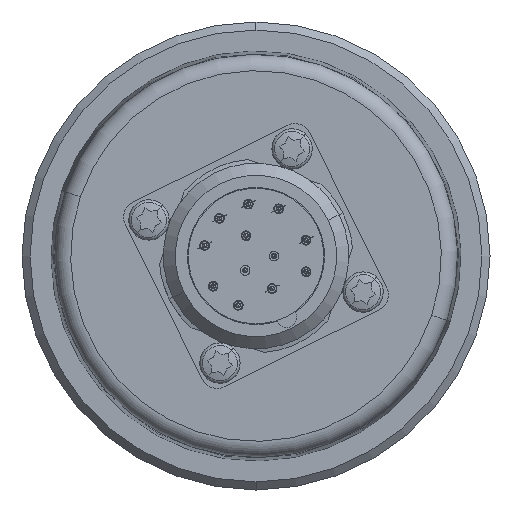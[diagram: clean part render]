
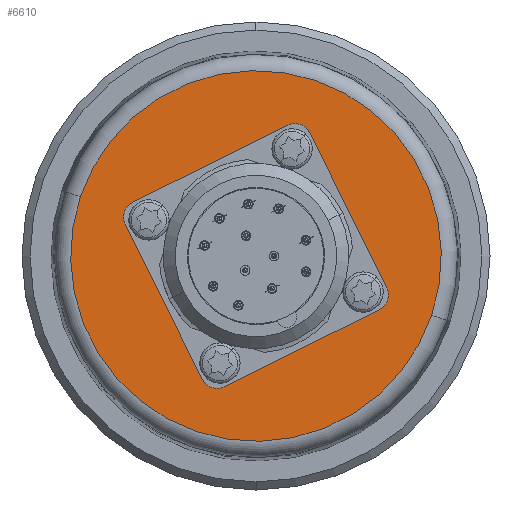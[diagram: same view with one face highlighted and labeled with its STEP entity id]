
A CAD part, left-side view. The second image highlights one B-rep face of the part: STEP entity #6610.
In plain terms, the highlighted planar face has unit normal (-1, 0, 0).
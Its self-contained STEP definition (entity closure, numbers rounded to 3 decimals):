
#599 = CIRCLE ( 'NONE', #657, 11.5 ) ;
#607 = DIRECTION ( 'NONE',  ( 0., 0.948, 0.319 ) ) ;
#608 = DIRECTION ( 'NONE',  ( 1., 0., 0. ) ) ;
#609 = CARTESIAN_POINT ( 'NONE',  ( -21., -4.469, 13.268 ) ) ;
#610 = AXIS2_PLACEMENT_3D ( 'NONE', #609, #608, #607 ) ;
#611 = CIRCLE ( 'NONE', #610, 1.389 ) ;
#649 = DIRECTION ( 'NONE',  ( 0., 0.948, 0.319 ) ) ;
#650 = DIRECTION ( 'NONE',  ( 1., 0., 0. ) ) ;
#651 = CARTESIAN_POINT ( 'NONE',  ( -21., -13.268, -4.469 ) ) ;
#652 = AXIS2_PLACEMENT_3D ( 'NONE', #651, #650, #649 ) ;
#653 = CIRCLE ( 'NONE', #652, 1.389 ) ;
#654 = DIRECTION ( 'NONE',  ( 0., -0.948, -0.319 ) ) ;
#655 = DIRECTION ( 'NONE',  ( -1., 0., 0. ) ) ;
#656 = CARTESIAN_POINT ( 'NONE',  ( -21., 0., 0. ) ) ;
#657 = AXIS2_PLACEMENT_3D ( 'NONE', #656, #655, #654 ) ;
#676 = DIRECTION ( 'NONE',  ( 0., -0.948, -0.319 ) ) ;
#677 = DIRECTION ( 'NONE',  ( -1., 0., 0. ) ) ;
#678 = CARTESIAN_POINT ( 'NONE',  ( -21., 0., 0. ) ) ;
#679 = AXIS2_PLACEMENT_3D ( 'NONE', #678, #677, #676 ) ;
#680 = CIRCLE ( 'NONE', #679, 11.5 ) ;
#682 = CARTESIAN_POINT ( 'NONE',  ( -21., 10.898, 3.671 ) ) ;
#687 = CARTESIAN_POINT ( 'NONE',  ( -21., -10.898, -3.671 ) ) ;
#897 = DIRECTION ( 'NONE',  ( 0., 0.948, 0.319 ) ) ;
#898 = DIRECTION ( 'NONE',  ( 1., 0., 0. ) ) ;
#899 = CARTESIAN_POINT ( 'NONE',  ( -21., -13.268, -4.469 ) ) ;
#900 = AXIS2_PLACEMENT_3D ( 'NONE', #899, #898, #897 ) ;
#901 = CIRCLE ( 'NONE', #900, 1.389 ) ;
#903 = CARTESIAN_POINT ( 'NONE',  ( -21., -11.952, -4.026 ) ) ;
#904 = DIRECTION ( 'NONE',  ( 0., 0.948, 0.319 ) ) ;
#905 = DIRECTION ( 'NONE',  ( -1., 0., 0. ) ) ;
#906 = CARTESIAN_POINT ( 'NONE',  ( -21., 0., 0. ) ) ;
#907 = AXIS2_PLACEMENT_3D ( 'NONE', #906, #905, #904 ) ;
#912 = CIRCLE ( 'NONE', #907, 22.972 ) ;
#943 = CARTESIAN_POINT ( 'NONE',  ( -21., -14.584, -4.912 ) ) ;
#6453 = EDGE_CURVE ( 'NONE', #6584, #6454, #11205, .T. ) ;
#6454 = VERTEX_POINT ( 'NONE', #11250 ) ;
#6519 = ORIENTED_EDGE ( 'NONE', *, *, #6650, .T. ) ;
#6574 = VERTEX_POINT ( 'NONE', #11569 ) ;
#6584 = VERTEX_POINT ( 'NONE', #11592 ) ;
#6591 = ORIENTED_EDGE ( 'NONE', *, *, #6609, .T. ) ;
#6592 = VERTEX_POINT ( 'NONE', #11576 ) ;
#6593 = ORIENTED_EDGE ( 'NONE', *, *, #7156, .T. ) ;
#6594 = ORIENTED_EDGE ( 'NONE', *, *, #6639, .T. ) ;
#6595 = EDGE_CURVE ( 'NONE', #6592, #6608, #11575, .T. ) ;
#6608 = VERTEX_POINT ( 'NONE', #11607 ) ;
#6609 = EDGE_CURVE ( 'NONE', #6608, #6592, #11605, .T. ) ;
#6610 = ADVANCED_FACE ( 'NONE', ( #11606, #11600, #11599, #11659, #11658, #11657 ), #11641, .F. ) ;
#6622 = EDGE_LOOP ( 'NONE', ( #6654, #6593 ) ) ;
#6623 = ORIENTED_EDGE ( 'NONE', *, *, #6595, .T. ) ;
#6638 = EDGE_CURVE ( 'NONE', #6640, #6641, #11761, .T. ) ;
#6639 = EDGE_CURVE ( 'NONE', #6574, #6649, #11751, .T. ) ;
#6640 = VERTEX_POINT ( 'NONE', #11746 ) ;
#6641 = VERTEX_POINT ( 'NONE', #11745 ) ;
#6649 = VERTEX_POINT ( 'NONE', #11790 ) ;
#6650 = EDGE_CURVE ( 'NONE', #6649, #6574, #11788, .T. ) ;
#6654 = ORIENTED_EDGE ( 'NONE', *, *, #6638, .T. ) ;
#6655 = EDGE_LOOP ( 'NONE', ( #6519, #6594 ) ) ;
#6656 = EDGE_LOOP ( 'NONE', ( #6591, #6623 ) ) ;
#7155 = EDGE_LOOP ( 'NONE', ( #7162, #7260 ) ) ;
#7156 = EDGE_CURVE ( 'NONE', #6641, #6640, #611, .T. ) ;
#7162 = ORIENTED_EDGE ( 'NONE', *, *, #7225, .T. ) ;
#7163 = ORIENTED_EDGE ( 'NONE', *, *, #7164, .F. ) ;
#7164 = EDGE_CURVE ( 'NONE', #7171, #7174, #599, .T. ) ;
#7165 = EDGE_CURVE ( 'NONE', #7235, #7224, #653, .T. ) ;
#7170 = ORIENTED_EDGE ( 'NONE', *, *, #6453, .T. ) ;
#7171 = VERTEX_POINT ( 'NONE', #687 ) ;
#7174 = VERTEX_POINT ( 'NONE', #682 ) ;
#7175 = ORIENTED_EDGE ( 'NONE', *, *, #7177, .F. ) ;
#7177 = EDGE_CURVE ( 'NONE', #7174, #7171, #680, .T. ) ;
#7190 = EDGE_LOOP ( 'NONE', ( #7219, #7170 ) ) ;
#7219 = ORIENTED_EDGE ( 'NONE', *, *, #7220, .T. ) ;
#7220 = EDGE_CURVE ( 'NONE', #6454, #6584, #912, .T. ) ;
#7223 = EDGE_LOOP ( 'NONE', ( #7163, #7175 ) ) ;
#7224 = VERTEX_POINT ( 'NONE', #903 ) ;
#7225 = EDGE_CURVE ( 'NONE', #7224, #7235, #901, .T. ) ;
#7235 = VERTEX_POINT ( 'NONE', #943 ) ;
#7260 = ORIENTED_EDGE ( 'NONE', *, *, #7165, .T. ) ;
#11194 = DIRECTION ( 'NONE',  ( 0., 0.948, 0.319 ) ) ;
#11195 = DIRECTION ( 'NONE',  ( -1., 0., 0. ) ) ;
#11196 = CARTESIAN_POINT ( 'NONE',  ( -21., 0., 0. ) ) ;
#11197 = AXIS2_PLACEMENT_3D ( 'NONE', #11196, #11195, #11194 ) ;
#11205 = CIRCLE ( 'NONE', #11197, 22.972 ) ;
#11250 = CARTESIAN_POINT ( 'NONE',  ( -21., 21.77, 7.332 ) ) ;
#11569 = CARTESIAN_POINT ( 'NONE',  ( -21., 11.952, 4.026 ) ) ;
#11571 = DIRECTION ( 'NONE',  ( 0., 0.948, 0.319 ) ) ;
#11572 = DIRECTION ( 'NONE',  ( 1., 0., 0. ) ) ;
#11573 = CARTESIAN_POINT ( 'NONE',  ( -21., 4.469, -13.268 ) ) ;
#11574 = AXIS2_PLACEMENT_3D ( 'NONE', #11573, #11572, #11571 ) ;
#11575 = CIRCLE ( 'NONE', #11574, 1.389 ) ;
#11576 = CARTESIAN_POINT ( 'NONE',  ( -21., 3.153, -13.712 ) ) ;
#11592 = CARTESIAN_POINT ( 'NONE',  ( -21., -21.77, -7.332 ) ) ;
#11599 = FACE_BOUND ( 'NONE', #6622, .T. ) ;
#11600 = FACE_BOUND ( 'NONE', #6656, .T. ) ;
#11601 = DIRECTION ( 'NONE',  ( 0., 0.948, 0.319 ) ) ;
#11602 = DIRECTION ( 'NONE',  ( 1., 0., 0. ) ) ;
#11603 = CARTESIAN_POINT ( 'NONE',  ( -21., 4.469, -13.268 ) ) ;
#11604 = AXIS2_PLACEMENT_3D ( 'NONE', #11603, #11602, #11601 ) ;
#11605 = CIRCLE ( 'NONE', #11604, 1.389 ) ;
#11606 = FACE_BOUND ( 'NONE', #6655, .T. ) ;
#11607 = CARTESIAN_POINT ( 'NONE',  ( -21., 5.785, -12.825 ) ) ;
#11637 = DIRECTION ( 'NONE',  ( 0., 0.948, 0.319 ) ) ;
#11638 = DIRECTION ( 'NONE',  ( 1., 0., 0. ) ) ;
#11639 = CARTESIAN_POINT ( 'NONE',  ( -21., 0., 0. ) ) ;
#11640 = AXIS2_PLACEMENT_3D ( 'NONE', #11639, #11638, #11637 ) ;
#11641 = PLANE ( 'NONE',  #11640 ) ;
#11657 = FACE_BOUND ( 'NONE', #7223, .T. ) ;
#11658 = FACE_OUTER_BOUND ( 'NONE', #7190, .T. ) ;
#11659 = FACE_BOUND ( 'NONE', #7155, .T. ) ;
#11745 = CARTESIAN_POINT ( 'NONE',  ( -21., -5.785, 12.825 ) ) ;
#11746 = CARTESIAN_POINT ( 'NONE',  ( -21., -3.153, 13.712 ) ) ;
#11747 = DIRECTION ( 'NONE',  ( 0., 0.948, 0.319 ) ) ;
#11748 = DIRECTION ( 'NONE',  ( 1., 0., 0. ) ) ;
#11749 = CARTESIAN_POINT ( 'NONE',  ( -21., 13.268, 4.469 ) ) ;
#11750 = AXIS2_PLACEMENT_3D ( 'NONE', #11749, #11748, #11747 ) ;
#11751 = CIRCLE ( 'NONE', #11750, 1.389 ) ;
#11752 = DIRECTION ( 'NONE',  ( 0., 0.948, 0.319 ) ) ;
#11753 = DIRECTION ( 'NONE',  ( 1., 0., 0. ) ) ;
#11754 = CARTESIAN_POINT ( 'NONE',  ( -21., -4.469, 13.268 ) ) ;
#11755 = AXIS2_PLACEMENT_3D ( 'NONE', #11754, #11753, #11752 ) ;
#11761 = CIRCLE ( 'NONE', #11755, 1.389 ) ;
#11784 = DIRECTION ( 'NONE',  ( 0., 0.948, 0.319 ) ) ;
#11785 = DIRECTION ( 'NONE',  ( 1., 0., 0. ) ) ;
#11786 = CARTESIAN_POINT ( 'NONE',  ( -21., 13.268, 4.469 ) ) ;
#11787 = AXIS2_PLACEMENT_3D ( 'NONE', #11786, #11785, #11784 ) ;
#11788 = CIRCLE ( 'NONE', #11787, 1.389 ) ;
#11790 = CARTESIAN_POINT ( 'NONE',  ( -21., 14.584, 4.912 ) ) ;
